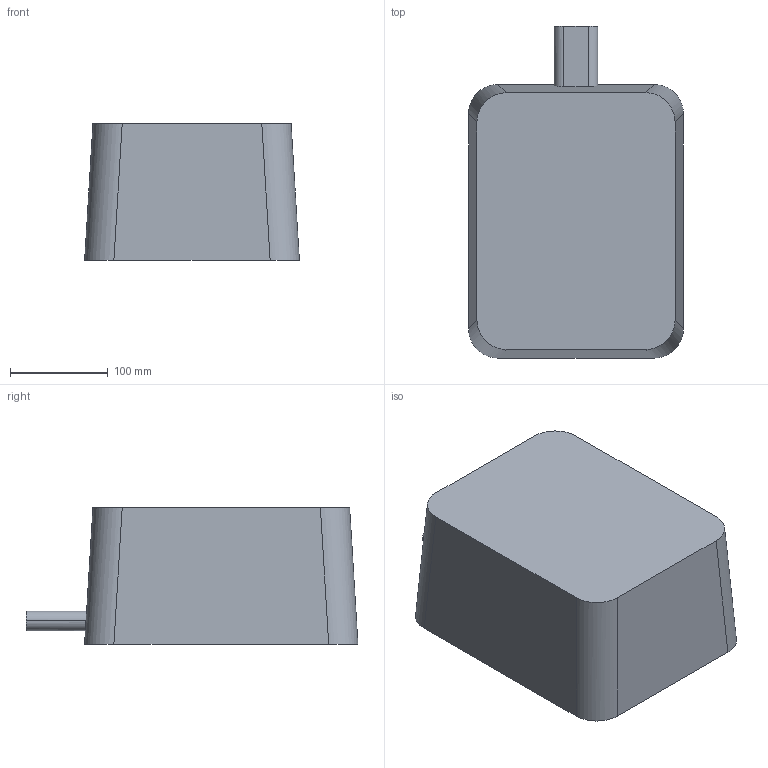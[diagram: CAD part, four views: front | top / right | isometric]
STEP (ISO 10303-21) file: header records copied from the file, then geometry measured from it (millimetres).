
FILE_DESCRIPTION (( 'STEP AP214' ), '1' );
FILE_NAME ('SPACE-REQUIRED-SOAPBOX.STEP', '2012-06-04T13:05:23', ( 'Gebruiker' ), ( 'Unattended' ), 'SwSTEP 2.0', 'SolidWorks 2009', '' );
FILE_SCHEMA (( 'AUTOMOTIVE_DESIGN' ));
Length unit declared in the file: millimetre
Products named in the file (1): SPACE-REQUIRED-SOAPBOX
Bounding box: 220 x 340 x 140 mm (x, y, z)
Volume: 7978883.2 mm3; surface area: 249620.8 mm2
Topology: 1 solids, 1 shells, 39 faces, 96 edges, 64 vertices
Faces by surface type: plane 21, cylinder 18
Entity records: 1177 total; most frequent: CARTESIAN_POINT 236, ORIENTED_EDGE 192, DIRECTION 188, EDGE_CURVE 96, VERTEX_POINT 64, AXIS2_PLACEMENT_3D 64, VECTOR 60, LINE 60
